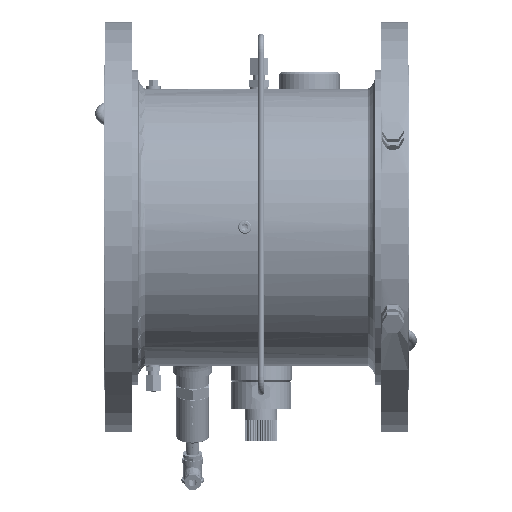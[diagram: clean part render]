
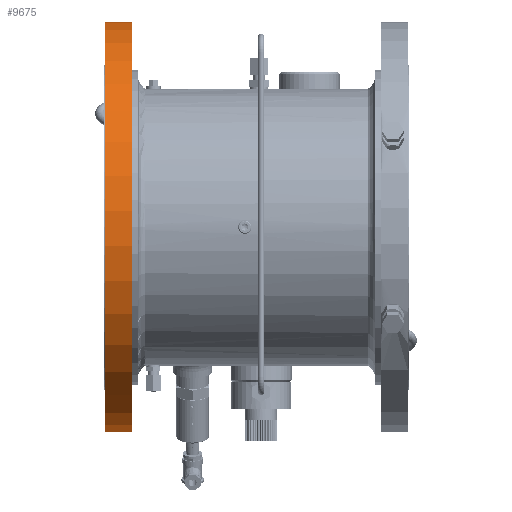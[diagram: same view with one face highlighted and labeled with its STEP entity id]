
A CAD part, front view. The second image highlights one B-rep face of the part: STEP entity #9675.
In plain terms, the highlighted cylindrical face has radius 202.5 mm (diameter 405 mm), a partial arc.
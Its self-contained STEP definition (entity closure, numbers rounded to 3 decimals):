
#8670=CARTESIAN_POINT('',(11.5,0.,0.));
#8671=DIRECTION('',(1.,0.,0.));
#8672=DIRECTION('',(0.,0.799,0.602));
#8673=AXIS2_PLACEMENT_3D('',#8670,#8671,#8672);
#8675=DIRECTION('',(1.,0.,0.));
#8676=VECTOR('',#8675,26.);
#8677=CARTESIAN_POINT('',(-14.5,186.372,79.194));
#8678=LINE('',#8677,#8676);
#8679=CARTESIAN_POINT('',(-14.5,0.,0.));
#8680=DIRECTION('',(-1.,0.,0.));
#8681=DIRECTION('',(0.,0.92,0.391));
#8682=AXIS2_PLACEMENT_3D('',#8679,#8680,#8681);
#8684=DIRECTION('',(-1.,0.,0.));
#8685=VECTOR('',#8684,26.);
#8686=CARTESIAN_POINT('',(11.5,161.77,121.806));
#8687=LINE('',#8686,#8685);
#8830=CARTESIAN_POINT('',(-14.5,161.77,121.806));
#8831=CARTESIAN_POINT('',(-14.5,186.372,79.194));
#8832=VERTEX_POINT('',#8830);
#8833=VERTEX_POINT('',#8831);
#8834=CARTESIAN_POINT('',(11.5,161.77,121.806));
#8835=VERTEX_POINT('',#8834);
#8836=CARTESIAN_POINT('',(11.5,186.372,79.194));
#8837=VERTEX_POINT('',#8836);
#9664=CARTESIAN_POINT('',(27.,0.,0.));
#9665=DIRECTION('',(-1.,0.,0.));
#9666=DIRECTION('',(0.,-1.,0.));
#9667=AXIS2_PLACEMENT_3D('',#9664,#9665,#9666);
#9668=CYLINDRICAL_SURFACE('',#9667,202.5);
#9669=ORIENTED_EDGE('',*,*,#9009,.T.);
#9670=ORIENTED_EDGE('',*,*,#9598,.F.);
#9671=ORIENTED_EDGE('',*,*,#9114,.T.);
#9672=ORIENTED_EDGE('',*,*,#9601,.F.);
#9673=EDGE_LOOP('',(#9669,#9670,#9671,#9672));
#9674=FACE_OUTER_BOUND('',#9673,.F.);
#9675=ADVANCED_FACE('',(#9674),#9668,.T.);
#8674=CIRCLE('',#8673,202.5);
#8683=CIRCLE('',#8682,202.5);
#9009=EDGE_CURVE('',#8835,#8837,#8674,.T.);
#9114=EDGE_CURVE('',#8833,#8832,#8683,.T.);
#9598=EDGE_CURVE('',#8833,#8837,#8678,.T.);
#9601=EDGE_CURVE('',#8835,#8832,#8687,.T.);
